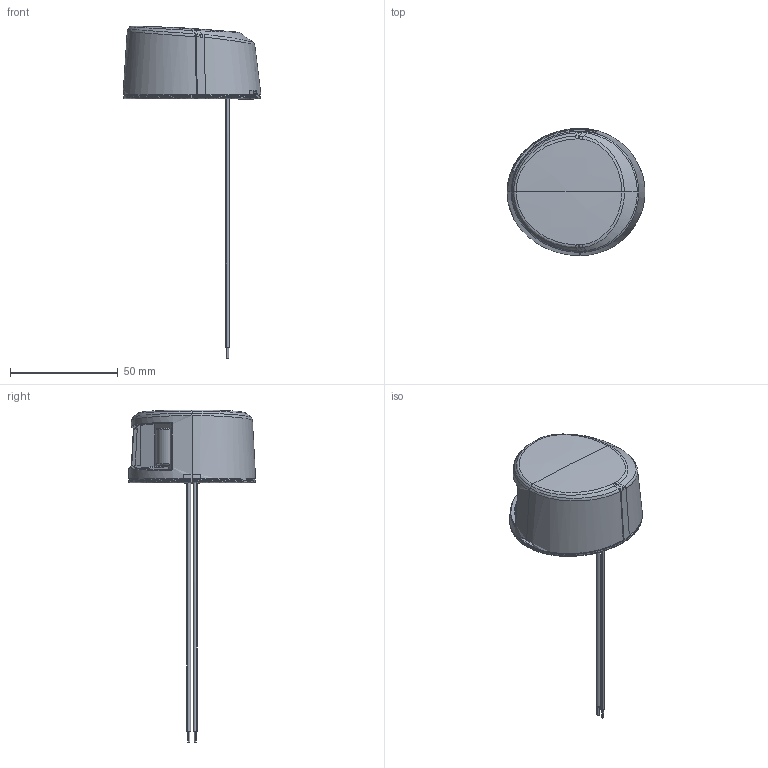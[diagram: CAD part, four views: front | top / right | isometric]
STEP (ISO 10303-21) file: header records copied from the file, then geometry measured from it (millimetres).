
FILE_DESCRIPTION(('CATIA V5 STEP Exchange','CAx-IF Rec.Pracs.--- Model Styling and Organization---1.5--- 2016-08-15','CAx-IF Rec.Pracs.---Supplemental Geometry---1.0---2011-11-01','CAx-IF Rec.Pracs.---Representation and Presentation of Product Manufacturing Information (PMI)---2.3---2014-10-13','CAx-IF Rec.Pracs.--- Composite Materials ---1.1---2010-07-15'),'2;1');
FILE_NAME('E:\tmp\ddx\2718943\10004049150_D10_001_SIM_STARBRD_LAMP_DECKMOUNT_GEN_II.stp','2026-09-22T02:06:33+00:00',('none'),('none'),'CATIA Version 5-6 Release 2024 SP3 HF10','CATIA V5 STEP AP214 Edition 3 v3','none');
FILE_SCHEMA(('AUTOMOTIVE_DESIGN { 1 0 10303 214 3 1 1 1 }'));
Products named in the file (1): 10004049150_D10_001
Bounding box: 63.97 x 59 x 154 mm (x, y, z)
Volume: 43806.9 mm3; surface area: 33657.9 mm2
Topology: 5 solids, 10 shells, 1121 faces, 2854 edges, 1764 vertices
Faces by surface type: bspline 469, plane 230, extrusion 168, cylinder 151, cone 50, torus 34, sphere 19
Entity records: 64248 total; most frequent: CARTESIAN_POINT 43054, ORIENTED_EDGE 5666, EDGE_CURVE 2833, B_SPLINE_CURVE_WITH_KNOTS 2096, DIRECTION 1891, VERTEX_POINT 1764, EDGE_LOOP 1169, ADVANCED_FACE 1121
